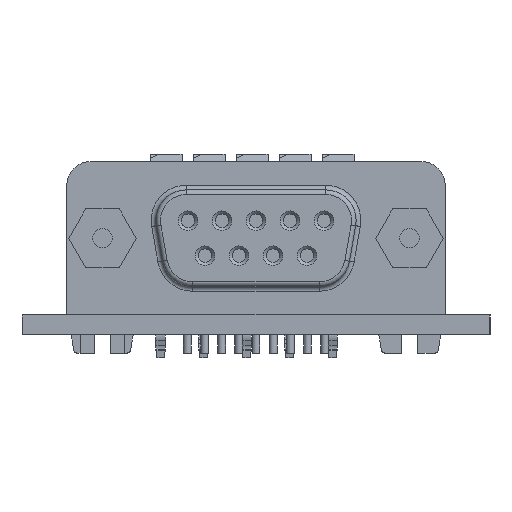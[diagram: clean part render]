
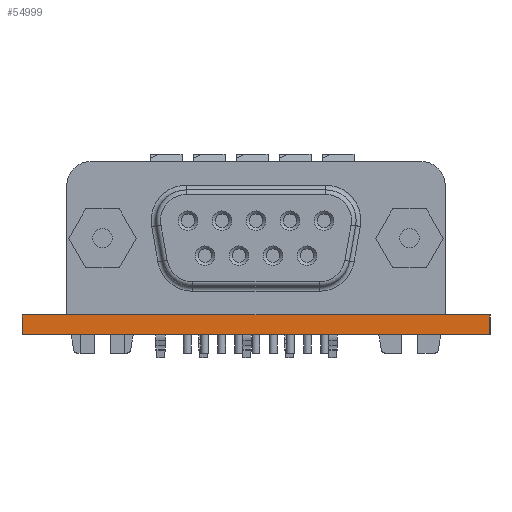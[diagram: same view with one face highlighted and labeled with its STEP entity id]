
A CAD part, left-side view. The second image highlights one B-rep face of the part: STEP entity #54999.
In plain terms, the highlighted planar face has unit normal (-1, 0, 0).
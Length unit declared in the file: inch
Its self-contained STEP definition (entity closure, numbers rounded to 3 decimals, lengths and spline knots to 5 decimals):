
#2603 = VERTEX_POINT ( 'NONE', #67699 ) ;
#3716 = AXIS2_PLACEMENT_3D ( 'NONE', #51822, #16884, #80189 ) ;
#9597 = EDGE_CURVE ( 'NONE', #64241, #75792, #71378, .T. ) ;
#10301 = DIRECTION ( 'NONE',  ( 0., 0., -1. ) ) ;
#16884 = DIRECTION ( 'NONE',  ( -1., 0., 0. ) ) ;
#17000 = VECTOR ( 'NONE', #10301, 39.37008 ) ;
#17854 = CARTESIAN_POINT ( 'NONE',  ( 23.195, 7.57, 0.0625 ) ) ;
#25306 = CARTESIAN_POINT ( 'NONE',  ( 23.195, 0., 0. ) ) ;
#28201 = ORIENTED_EDGE ( 'NONE', *, *, #58462, .F. ) ;
#30050 = PLANE ( 'NONE',  #3716 ) ;
#30282 = CARTESIAN_POINT ( 'NONE',  ( 23.195, 7.57, 0. ) ) ;
#31042 = CARTESIAN_POINT ( 'NONE',  ( 23.195, 6.07, 0. ) ) ;
#34927 = VECTOR ( 'NONE', #88597, 39.37008 ) ;
#35319 = DIRECTION ( 'NONE',  ( 0., 0., -1. ) ) ;
#48353 = LINE ( 'NONE', #25306, #34927 ) ;
#49342 = VERTEX_POINT ( 'NONE', #31042 ) ;
#51822 = CARTESIAN_POINT ( 'NONE',  ( 23.195, 0., 0.0625 ) ) ;
#52448 = ORIENTED_EDGE ( 'NONE', *, *, #77749, .T. ) ;
#54999 = ADVANCED_FACE ( 'NONE', ( #55217 ), #30050, .T. ) ;
#55217 = FACE_OUTER_BOUND ( 'NONE', #69279, .T. ) ;
#58462 = EDGE_CURVE ( 'NONE', #2603, #49342, #87293, .T. ) ;
#64035 = CARTESIAN_POINT ( 'NONE',  ( 23.195, 7.57, 0.0625 ) ) ;
#64241 = VERTEX_POINT ( 'NONE', #17854 ) ;
#67699 = CARTESIAN_POINT ( 'NONE',  ( 23.195, 6.07, 0.0625 ) ) ;
#68627 = VECTOR ( 'NONE', #80376, 39.37008 ) ;
#69192 = VECTOR ( 'NONE', #35319, 39.37008 ) ;
#69279 = EDGE_LOOP ( 'NONE', ( #76133, #28201, #52448, #87018 ) ) ;
#71378 = LINE ( 'NONE', #64035, #69192 ) ;
#71500 = EDGE_CURVE ( 'NONE', #49342, #75792, #48353, .T. ) ;
#75792 = VERTEX_POINT ( 'NONE', #30282 ) ;
#76133 = ORIENTED_EDGE ( 'NONE', *, *, #71500, .F. ) ;
#77749 = EDGE_CURVE ( 'NONE', #2603, #64241, #86381, .T. ) ;
#79145 = CARTESIAN_POINT ( 'NONE',  ( 23.195, 0., 0.0625 ) ) ;
#80189 = DIRECTION ( 'NONE',  ( 0., 0., 1. ) ) ;
#80376 = DIRECTION ( 'NONE',  ( 0., 1., 0. ) ) ;
#80805 = CARTESIAN_POINT ( 'NONE',  ( 23.195, 6.07, 0.0625 ) ) ;
#86381 = LINE ( 'NONE', #79145, #68627 ) ;
#87018 = ORIENTED_EDGE ( 'NONE', *, *, #9597, .T. ) ;
#87293 = LINE ( 'NONE', #80805, #17000 ) ;
#88597 = DIRECTION ( 'NONE',  ( 0., 1., 0. ) ) ;
